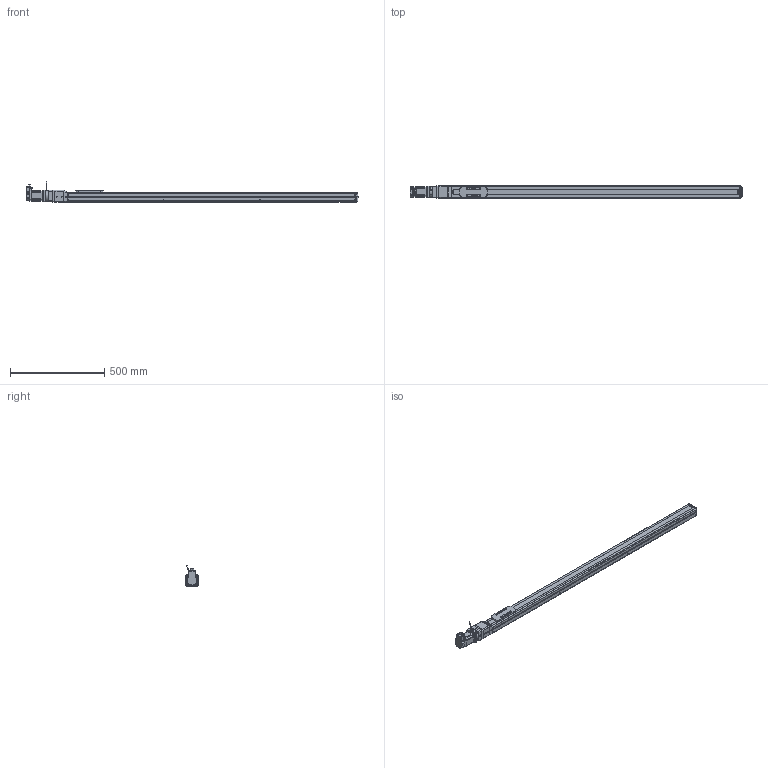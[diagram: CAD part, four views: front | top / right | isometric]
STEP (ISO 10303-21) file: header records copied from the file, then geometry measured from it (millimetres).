
FILE_DESCRIPTION(('FreeCAD Model'),'2;1');
FILE_NAME('Open CASCADE Shape Model','2023-08-03T17:27:01',('Author'),( ''),'Open CASCADE STEP processor 7.5','FreeCAD','Unknown');
FILE_SCHEMA(('AUTOMOTIVE_DESIGN { 1 0 10303 214 1 1 1 1 }'));
Length unit declared in the file: millimetre
Products named in the file (21): RMJ1211_BRK; Shapes; Shapes001; Shapes002; Shapes003; Shapes004; Shapes005; Shapes006; Shapes007; Shapes008; Shapes009; Shapes010; Shapes011; Shapes012; Body; BXW-03-10H-8_STEP; Body001; KSF6-20-1300-0-A0(0); KSF6---(Cover); KSF6-10-0050---(slider); KSF6-20-01300-A0 (01300A0No0)---(body)
Assembly tree (20 placements, depth 3):
  RMJ1211_BRK
    Shapes
    Shapes001
    Shapes002
    Shapes003
    Shapes004
    Shapes005
    Shapes006
    Shapes007
    Shapes008
    Shapes009
    Shapes010
    Shapes011
    Shapes012
    Body
    BXW-03-10H-8_STEP
    Body001
    KSF6-20-1300-0-A0(0)
      KSF6---(Cover)
      KSF6-10-0050---(slider)
      KSF6-20-01300-A0 (01300A0No0)---(body)
Bounding box: 1760.47 x 66.4 x 107.79 mm (x, y, z)
Volume: 5457837 mm3; surface area: 571446.4 mm2
Topology: 19 solids, 19 shells, 1922 faces, 5086 edges, 3337 vertices
Faces by surface type: plane 1267, cylinder 505, cone 91, bspline 28, torus 27, revolution 4
Full cylindrical faces by diameter (mm): 2.113 x8, 2.6 x4, 3 x5, 3.242 x5, 4.134 x4, 4.2 x7, 4.3 x1, 4.5 x2, 5 x1, 5.5 x22, 6.5 x4, 7.5 x4, 9 x1, 9.5 x16, 12 x1, 15.5 x1, 17 x1, 38.1 x1, 38.2 x1, 44 x1, 50 x2, 56.2 x1
Entity records: 136569 total; most frequent: CARTESIAN_POINT 31710, DIRECTION 19345, LINE 12492, VECTOR 12492, ORIENTED_EDGE 10124, PCURVE 10124, DEFINITIONAL_REPRESENTATION 10124, EDGE_CURVE 5062
